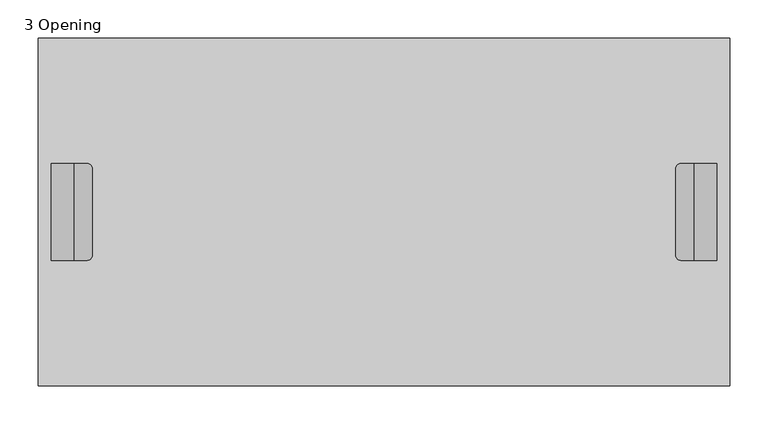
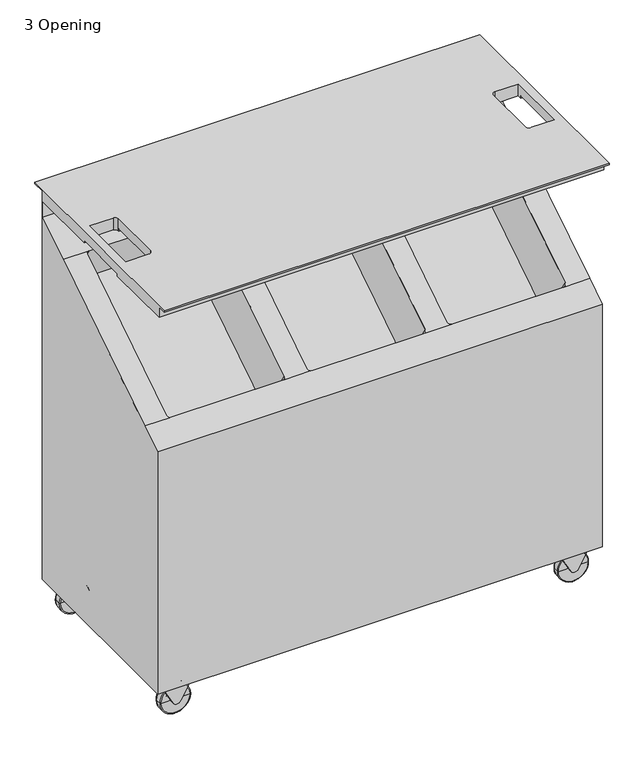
"""IFC4 building model written with IfcOpenShell, lengths in millimetres: furniture geometry, Steelcase - Victor2 - Mobile Unit : 3 Opening."""

from ifc_helpers import new_model, si_unit, point, frame, frame_2d, origin, place, context, project, spatial, polyline, circle_curve, ellipse_curve, trimmed, segment, composite_curve, outline, extrude, source, transform, mapped, element, save
from ifc_brep_helpers import plane_surface, cylinder_surface, revolved_surface, advanced_brep


def furniture_3_opening_07100883(model_context):
    return source(origin(), model_context, "Body", "SolidModel", [
        advanced_brep(
        [(911.56, -457.2, 911.56), (911.56, -457.2, 907.999633), (911.56, -439.2, 907.999633), (911.56, -439.2, 886.1806), (911.56, -292.2, 886.1806), (911.56, -292.2, 891.399), (911.56, -174.1382207, 891.399), (911.56, -174.1382207, 886.1806), (911.56, -26.2, 886.1806), (911.56, -26.2, 852.0684), (911.56, -99.5358468, 805.3628057), (911.56, -388.5910552, 621.2714522), (911.56, -433.728, 592.5249671), (911.56, -433.728, 69.3674), (911.56, -25.4, 69.3674), (911.56, -25.4, 908.05), (911.56, 0.0, 908.05), (911.56, 0.0, 911.56), (2.84, -457.2, 911.56), (2.84, 0.0, 911.56), (2.84, 0.0, 908.05), (2.84, -25.4, 908.05), (2.84, -25.4, 69.3674), (2.84, -433.728, 69.3674), (2.84, -433.728, 592.5249671), (2.84, -388.5910552, 621.2714522), (2.84, -99.5358468, 805.3628057), (2.84, -26.2, 852.0684), (2.84, -26.2, 886.1806), (2.84, -174.1382207, 886.1806), (2.84, -174.1382207, 891.399), (2.84, -292.2, 891.399), (2.84, -292.2, 886.1806), (2.84, -439.2, 886.1806), (2.84, -439.2, 907.999633), (2.84, -457.2, 907.999633), (19.9, -292.2, 891.399), (19.9, -292.2, 911.56), (67.5633572, -292.2, 911.56), (67.5633572, -292.2, 891.399), (846.8366428, -292.2, 891.399), (846.8366428, -292.2, 911.56), (894.5, -292.2, 911.56), (894.5, -292.2, 891.399), (894.5, -174.1382207, 891.399), (19.9, -174.1382207, 891.399), (73.9133572, -285.85, 891.399), (73.9133572, -174.1382207, 891.399), (840.4866428, -174.1382207, 891.399), (840.4866428, -285.85, 891.399), (894.5, -174.1382207, 886.1806), (19.9, -174.1382207, 886.1806), (73.9133572, -174.1382207, 886.1806), (840.4866428, -174.1382207, 886.1806), (894.5, -165.2030242, 886.1806), (846.8366428, -165.2030242, 886.1806), (840.4866428, -171.5530242, 886.1806), (73.9133572, -171.5530242, 886.1806), (67.5633572, -165.2030242, 886.1806), (19.9, -165.2030242, 886.1806), (56.15, -99.5358468, 805.3628057), (284.75, -99.5358468, 805.3628057), (343.4, -99.5358468, 805.3628057), (572.0, -99.5358468, 805.3628057), (629.65, -99.5358468, 805.3628057), (858.25, -99.5358468, 805.3628057), (864.6, -104.8918621, 801.9517061), (864.6, -383.2354342, 624.6823007), (858.3270488, -388.5910552, 621.2714522), (53.5728625, -388.5910552, 621.2714522), (49.8, -383.6959765, 624.388994), (49.8, -104.8918621, 801.9517061), (291.1, -104.8918621, 801.9517061), (291.1, -383.6959765, 624.388994), (287.3271375, -388.5910552, 621.2714522), (340.7363542, -388.5910552, 621.2714522), (337.05, -383.7290339, 624.3679406), (337.05, -104.8918621, 801.9517061), (578.35, -104.8918621, 801.9517061), (578.35, -383.7290339, 624.3679406), (574.6636458, -388.5910552, 621.2714522), (629.65, -388.5914495, 621.2712011), (623.3, -383.2354342, 624.6823007), (623.3, -104.8918621, 801.9517061), (572.0, -389.0850492, 620.956841), (343.4, -389.0850492, 620.956841), (284.75, -389.0519917, 620.9778944), (56.15, -389.0519917, 620.9778944), (19.9, -165.2030242, 911.56), (67.5633572, -165.2030242, 911.56), (73.9133572, -171.5530242, 911.56), (73.9133572, -285.85, 911.56), (840.4866428, -171.5530242, 911.56), (846.8366428, -165.2030242, 911.56), (894.5, -165.2030242, 911.56), (840.4866428, -285.85, 911.56), (56.15, -28.2063361, 693.3631588), (49.8, -33.5623514, 689.9520592), (49.8, -312.3664657, 512.3893471), (56.15, -317.722481, 508.9782475), (284.75, -317.722481, 508.9782475), (291.1, -312.3664657, 512.3893471), (291.1, -33.5623514, 689.9520592), (284.75, -28.2063361, 693.3631588), (343.4, -28.2063361, 693.3631588), (337.05, -33.5623514, 689.9520592), (337.05, -312.3995232, 512.3682937), (343.4, -317.7555385, 508.9571941), (572.0, -317.7555385, 508.9571941), (578.35, -312.3995232, 512.3682937), (578.35, -33.5623514, 689.9520592), (572.0, -28.2063361, 693.3631588), (629.65, -28.2063361, 693.3631588), (623.3, -33.5623514, 689.9520592), (623.3, -311.9059235, 512.6826538), (629.65, -317.2619388, 509.2715542), (858.25, -317.2619388, 509.2715542), (864.6, -311.9059235, 512.6826538), (864.6, -33.5623514, 689.9520592), (858.25, -28.2063361, 693.3631588)],
        [
            (0, 1),
            (1, 2),
            (2, 3),
            (3, 4),
            (4, 5),
            (5, 6),
            (6, 7),
            (7, 8),
            (8, 9),
            (9, 10),
            (10, 11),
            (11, 12),
            (12, 13),
            (13, 14),
            (14, 15),
            (15, 16),
            (16, 17),
            (17, 0),
            (18, 19),
            (19, 20),
            (20, 21),
            (21, 22),
            (22, 23),
            (23, 24),
            (24, 25),
            (25, 26),
            (26, 27),
            (27, 28),
            (28, 29),
            (29, 30),
            (30, 31),
            (31, 32),
            (32, 33),
            (33, 34),
            (34, 35),
            (35, 18),
            (0, 18),
            (35, 1),
            (34, 2),
            (33, 3),
            (32, 4),
            (31, 36),
            (36, 37),
            (37, 38),
            (38, 39),
            (39, 40),
            (40, 41),
            (41, 42),
            (42, 43),
            (43, 5),
            (43, 44),
            (44, 6),
            (30, 45),
            (45, 36),
            (39, 46, circle_curve(frame((67.5633572, -285.85, 891.399), z_axis=(0.0, 0.0, 1.0), x_axis=(1.0, 0.0, 0.0)), 6.35)),
            (46, 47),
            (47, 48),
            (48, 49),
            (49, 40, circle_curve(frame((846.8366428, -285.85, 891.399), z_axis=(0.0, 0.0, 1.0), x_axis=(1.0, 0.0, 0.0)), 6.35)),
            (44, 50),
            (50, 7),
            (29, 51),
            (51, 45),
            (47, 52),
            (52, 53),
            (53, 48),
            (50, 54),
            (54, 55),
            (55, 56, circle_curve(frame((846.8366428, -171.5530242, 886.1806), z_axis=(0.0, 0.0, 1.0), x_axis=(1.0, 0.0, 0.0)), 6.35)),
            (56, 53),
            (52, 57),
            (57, 58, circle_curve(frame((67.5633572, -171.5530242, 886.1806), z_axis=(0.0, 0.0, 1.0), x_axis=(1.0, 0.0, 0.0)), 6.35)),
            (58, 59),
            (59, 51),
            (28, 8),
            (27, 9),
            (26, 60),
            (60, 61),
            (61, 62),
            (62, 63),
            (63, 64),
            (64, 65),
            (65, 10),
            (65, 66, circle_curve(frame((858.25, -104.8918621, 801.9517061), z_axis=(0.0, 0.537181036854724, -0.8434669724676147), x_axis=(1.0, 0.0, 0.0)), 6.35)),
            (66, 67),
            (67, 68, circle_curve(frame((858.25, -383.2354342, 624.6823007), z_axis=(0.0, 0.537181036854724, -0.8434669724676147), x_axis=(1.0, 0.0, 0.0)), 6.35)),
            (68, 11),
            (25, 69),
            (69, 70, circle_curve(frame((56.15, -383.6959765, 624.388994), z_axis=(0.0, 0.537181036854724, -0.8434669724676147), x_axis=(1.0, 0.0, 0.0)), 6.35)),
            (70, 71),
            (71, 60, circle_curve(frame((56.15, -104.8918621, 801.9517061), z_axis=(0.0, 0.537181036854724, -0.8434669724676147), x_axis=(1.0, 0.0, 0.0)), 6.35)),
            (61, 72, circle_curve(frame((284.75, -104.8918621, 801.9517061), z_axis=(0.0, 0.537181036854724, -0.8434669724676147), x_axis=(1.0, 0.0, 0.0)), 6.35)),
            (72, 73),
            (73, 74, circle_curve(frame((284.75, -383.6959765, 624.388994), z_axis=(0.0, 0.537181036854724, -0.8434669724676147), x_axis=(1.0, 0.0, 0.0)), 6.35)),
            (74, 75),
            (75, 76, circle_curve(frame((343.4, -383.7290339, 624.3679406), z_axis=(0.0, 0.537181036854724, -0.8434669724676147), x_axis=(1.0, 0.0, 0.0)), 6.35)),
            (76, 77),
            (77, 62, circle_curve(frame((343.4, -104.8918621, 801.9517061), z_axis=(0.0, 0.537181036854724, -0.8434669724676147), x_axis=(1.0, 0.0, 0.0)), 6.35)),
            (63, 78, circle_curve(frame((572.0, -104.8918621, 801.9517061), z_axis=(0.0, 0.537181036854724, -0.8434669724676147), x_axis=(1.0, 0.0, 0.0)), 6.35)),
            (78, 79),
            (79, 80, circle_curve(frame((572.0, -383.7290339, 624.3679406), z_axis=(0.0, 0.537181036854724, -0.8434669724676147), x_axis=(1.0, 0.0, 0.0)), 6.35)),
            (80, 81),
            (81, 82, circle_curve(frame((629.65, -383.2354342, 624.6823007), z_axis=(0.0, 0.537181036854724, -0.8434669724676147), x_axis=(1.0, 0.0, 0.0)), 6.35)),
            (82, 83),
            (83, 64, circle_curve(frame((629.65, -104.8918621, 801.9517061), z_axis=(0.0, 0.537181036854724, -0.8434669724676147), x_axis=(1.0, 0.0, 0.0)), 6.35)),
            (68, 81),
            (80, 84, circle_curve(frame((572.0, -383.7290339, 624.3679406), z_axis=(0.0, 0.537181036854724, -0.8434669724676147), x_axis=(1.0, 0.0, 0.0)), 6.35)),
            (84, 85),
            (85, 75, circle_curve(frame((343.4, -383.7290339, 624.3679406), z_axis=(0.0, 0.537181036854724, -0.8434669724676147), x_axis=(1.0, 0.0, 0.0)), 6.35)),
            (74, 86, circle_curve(frame((284.75, -383.6959765, 624.388994), z_axis=(0.0, 0.537181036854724, -0.8434669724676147), x_axis=(1.0, 0.0, 0.0)), 6.35)),
            (86, 87),
            (87, 69, circle_curve(frame((56.15, -383.6959765, 624.388994), z_axis=(0.0, 0.537181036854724, -0.8434669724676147), x_axis=(1.0, 0.0, 0.0)), 6.35)),
            (24, 12),
            (23, 13),
            (22, 14),
            (21, 15),
            (20, 16),
            (19, 17),
            (88, 89),
            (89, 90, circle_curve(frame((67.5633572, -171.5530242, 911.56), z_axis=(0.0, 0.0, -1.0), x_axis=(1.0, 0.0, 0.0)), 6.35)),
            (90, 91),
            (91, 38, circle_curve(frame((67.5633572, -285.85, 911.56), z_axis=(0.0, 0.0, -1.0), x_axis=(1.0, 0.0, 0.0)), 6.35)),
            (37, 88),
            (92, 93, circle_curve(frame((846.8366428, -171.5530242, 911.56), z_axis=(0.0, 0.0, -1.0), x_axis=(1.0, 0.0, 0.0)), 6.35)),
            (93, 94),
            (94, 42),
            (41, 95, circle_curve(frame((846.8366428, -285.85, 911.56), z_axis=(0.0, 0.0, -1.0), x_axis=(1.0, 0.0, 0.0)), 6.35)),
            (95, 92),
            (96, 97, circle_curve(frame((56.15, -33.5623514, 689.9520592), z_axis=(0.0, -0.537181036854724, 0.8434669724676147), x_axis=(1.0, 0.0, 0.0)), 6.35)),
            (97, 98),
            (98, 99, circle_curve(frame((56.15, -312.3664657, 512.3893471), z_axis=(0.0, -0.537181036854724, 0.8434669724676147), x_axis=(1.0, 0.0, 0.0)), 6.35)),
            (99, 100),
            (100, 101, circle_curve(frame((284.75, -312.3664657, 512.3893471), z_axis=(0.0, -0.537181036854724, 0.8434669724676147), x_axis=(1.0, 0.0, 0.0)), 6.35)),
            (101, 102),
            (102, 103, circle_curve(frame((284.75, -33.5623514, 689.9520592), z_axis=(0.0, -0.537181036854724, 0.8434669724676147), x_axis=(1.0, 0.0, 0.0)), 6.35)),
            (103, 96),
            (104, 105, circle_curve(frame((343.4, -33.5623514, 689.9520592), z_axis=(0.0, -0.537181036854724, 0.8434669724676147), x_axis=(1.0, 0.0, 0.0)), 6.35)),
            (105, 106),
            (106, 107, circle_curve(frame((343.4, -312.3995232, 512.3682937), z_axis=(0.0, -0.537181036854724, 0.8434669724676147), x_axis=(1.0, 0.0, 0.0)), 6.35)),
            (107, 108),
            (108, 109, circle_curve(frame((572.0, -312.3995232, 512.3682937), z_axis=(0.0, -0.537181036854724, 0.8434669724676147), x_axis=(1.0, 0.0, 0.0)), 6.35)),
            (109, 110),
            (110, 111, circle_curve(frame((572.0, -33.5623514, 689.9520592), z_axis=(0.0, -0.537181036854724, 0.8434669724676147), x_axis=(1.0, 0.0, 0.0)), 6.35)),
            (111, 104),
            (112, 113, circle_curve(frame((629.65, -33.5623514, 689.9520592), z_axis=(0.0, -0.537181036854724, 0.8434669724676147), x_axis=(1.0, 0.0, 0.0)), 6.35)),
            (113, 114),
            (114, 115, circle_curve(frame((629.65, -311.9059235, 512.6826538), z_axis=(0.0, -0.537181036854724, 0.8434669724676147), x_axis=(1.0, 0.0, 0.0)), 6.35)),
            (115, 116),
            (116, 117, circle_curve(frame((858.25, -311.9059235, 512.6826538), z_axis=(0.0, -0.537181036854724, 0.8434669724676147), x_axis=(1.0, 0.0, 0.0)), 6.35)),
            (117, 118),
            (118, 119, circle_curve(frame((858.25, -33.5623514, 689.9520592), z_axis=(0.0, -0.537181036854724, 0.8434669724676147), x_axis=(1.0, 0.0, 0.0)), 6.35)),
            (119, 112),
            (96, 60),
            (71, 97),
            (70, 98),
            (87, 99),
            (86, 100),
            (73, 101),
            (72, 102),
            (61, 103),
            (104, 62),
            (77, 105),
            (76, 106),
            (85, 107),
            (84, 108),
            (79, 109),
            (78, 110),
            (63, 111),
            (112, 64),
            (83, 113),
            (82, 114),
            (81, 115),
            (68, 116),
            (67, 117),
            (66, 118),
            (65, 119),
            (58, 89),
            (88, 59),
            (91, 46),
            (90, 57),
            (55, 93),
            (92, 56),
            (95, 49),
            (94, 54),
        ],
        [
            plane_surface(frame((911.56, -457.2, 908.4), z_axis=(1.0, 0.0, 0.0), x_axis=(0.0, 0.0, -1.0))),
            plane_surface(frame((2.84, -457.2, 908.4), z_axis=(-1.0, 0.0, 0.0), x_axis=(0.0, 0.0, 1.0))),
            plane_surface(frame((911.56, -457.2, 911.56), z_axis=(0.0, -1.0, 0.0), x_axis=(-1.0, 0.0, 0.0))),
            plane_surface(frame((911.56, -457.2, 907.999633), z_axis=(0.0, 0.0, -1.0), x_axis=(-1.0, 0.0, 0.0))),
            plane_surface(frame((911.56, -439.2, 907.999633), z_axis=(0.0, -1.0, 0.0), x_axis=(-1.0, 0.0, 0.0))),
            plane_surface(frame((911.56, -439.2, 886.1806), z_axis=(0.0, 0.0, -1.0), x_axis=(-1.0, 0.0, 0.0))),
            plane_surface(frame((911.56, -292.2, 886.1806), z_axis=(0.0, 1.0, 0.0), x_axis=(-1.0, 0.0, 0.0))),
            plane_surface(frame((911.56, -292.2, 891.399), z_axis=(0.0, 0.0, -1.0), x_axis=(-1.0, 0.0, 0.0))),
            plane_surface(frame((911.56, -174.1382207, 891.399), z_axis=(0.0, -1.0, 0.0), x_axis=(-1.0, 0.0, 0.0))),
            plane_surface(frame((911.56, -174.1382207, 886.1806), z_axis=(0.0, 0.0, -1.0), x_axis=(-1.0, 0.0, 0.0))),
            plane_surface(frame((911.56, -26.2, 886.1806), z_axis=(0.0, -1.0, 0.0), x_axis=(-1.0, 0.0, 0.0))),
            plane_surface(frame((911.56, -26.2, 852.0684), z_axis=(0.0, -0.5371810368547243, 0.8434669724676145), x_axis=(-1.0, 0.0, 0.0))),
            plane_surface(frame((911.56, -99.5358468, 805.3628057), z_axis=(0.0, -0.5371810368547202, 0.843466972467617), x_axis=(-1.0, 0.0, 0.0))),
            plane_surface(frame((911.56, -388.5910552, 621.2714522), z_axis=(0.0, -0.5371810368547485, 0.843466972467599), x_axis=(-1.0, 0.0, 0.0))),
            plane_surface(frame((911.56, -433.728, 592.5249671), z_axis=(0.0, -1.0, 0.0), x_axis=(-1.0, 0.0, 0.0))),
            plane_surface(frame((911.56, -433.728, 69.3674), z_axis=(0.0, 0.0, -1.0), x_axis=(-1.0, 0.0, 0.0))),
            plane_surface(frame((911.56, -25.4, 69.3674), z_axis=(0.0, 1.0, 0.0), x_axis=(-1.0, 0.0, 0.0))),
            plane_surface(frame((911.56, -25.4, 908.05), z_axis=(0.0, 0.0, -1.0), x_axis=(-1.0, 0.0, 0.0))),
            plane_surface(frame((911.56, 0.0, 908.05), z_axis=(0.0, 1.0, 0.0), x_axis=(-1.0, 0.0, 0.0))),
            plane_surface(frame((911.56, 0.0, 911.56), z_axis=(0.0, 0.0, 1.0), x_axis=(-1.0, 0.0, 0.0))),
            plane_surface(frame((62.5, -33.5623514, 689.9520592), z_axis=(0.0, -0.5371810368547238, 0.8434669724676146), x_axis=(0.0, -0.8434669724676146, -0.5371810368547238))),
            revolved_surface(polyline([(62.5, -104.89186210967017, 801.9517060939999), (62.5, -33.5623514, 689.9520592)]), (56.15, -33.5623514, 689.9520592), (0.0, -0.537181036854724, 0.8434669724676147)),
            plane_surface(frame((49.8, -130.0259643, 841.416586), z_axis=(1.0, 0.0, 0.0), x_axis=(0.0, 0.537181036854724, -0.8434669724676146))),
            revolved_surface(polyline([(62.5, -383.6959764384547, 624.3889940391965), (62.5, -312.36646569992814, 512.3893470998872)]), (56.15, -312.3664657, 512.3893471), (0.0, -0.537181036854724, 0.8434669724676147)),
            plane_surface(frame((56.15, -414.1860939, 660.4427743), z_axis=(0.0, 0.8434669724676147, 0.5371810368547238), x_axis=(0.0, 0.5371810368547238, -0.8434669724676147))),
            revolved_surface(polyline([(291.1, -383.6959764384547, 624.3889940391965), (291.1, -312.36646569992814, 512.3893470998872)]), (284.75, -312.3664657, 512.3893471), (0.0, -0.537181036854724, 0.8434669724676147)),
            plane_surface(frame((291.1, -408.8300787, 663.8538738), z_axis=(-1.0, 0.0, 0.0), x_axis=(0.0, 0.5371810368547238, -0.8434669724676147))),
            revolved_surface(polyline([(291.1, -104.89186210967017, 801.9517060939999), (291.1, -33.5623514, 689.9520592)]), (284.75, -33.5623514, 689.9520592), (0.0, -0.537181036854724, 0.8434669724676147)),
            plane_surface(frame((284.75, -124.669949, 844.8276856), z_axis=(0.0, -0.8434669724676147, -0.5371810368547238), x_axis=(0.0, 0.5371810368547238, -0.8434669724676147))),
            revolved_surface(polyline([(349.75, -104.89186207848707, 801.9517061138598), (349.75, -33.56235136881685, 689.95205921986)]), (343.4, 325.1981738, 126.6360945), (0.0, -0.537181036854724, 0.8434669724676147)),
            plane_surface(frame((337.05, -130.0259643, 841.416586), z_axis=(1.0, 0.0, 0.0), x_axis=(0.0, 0.5371810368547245, -0.8434669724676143))),
            revolved_surface(polyline([(349.75, -383.72903394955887, 624.3679405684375), (349.75, -312.3995232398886, 512.3682936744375)]), (343.4, 46.3610019, -50.947671), (0.0, -0.537181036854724, 0.8434669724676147)),
            plane_surface(frame((343.4, -414.2191514, 660.4217209), z_axis=(0.0, 0.8434669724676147, 0.5371810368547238), x_axis=(0.0, 0.5371810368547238, -0.8434669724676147))),
            revolved_surface(polyline([(578.35, -383.72903394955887, 624.3679405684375), (578.35, -312.3995232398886, 512.3682936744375)]), (572.0, 46.3610019, -50.947671), (0.0, -0.537181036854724, 0.8434669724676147)),
            plane_surface(frame((578.35, -408.8631361, 663.8328204), z_axis=(-1.0000000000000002, 0.0, 0.0), x_axis=(0.0, 0.5371810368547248, -0.8434669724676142))),
            revolved_surface(polyline([(578.35, -104.89186207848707, 801.9517061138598), (578.35, -33.56235136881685, 689.95205921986)]), (572.0, 325.1981738, 126.6360945), (0.0, -0.537181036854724, 0.8434669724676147)),
            plane_surface(frame((572.0, -124.669949, 844.8276856), z_axis=(0.0, -0.8434669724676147, -0.5371810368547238), x_axis=(0.0, 0.5371810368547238, -0.8434669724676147))),
            revolved_surface(polyline([(636.0, -104.89186207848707, 801.9517061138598), (636.0, -33.56235136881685, 689.95205921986)]), (629.65, 325.1981738, 126.6360945), (0.0, -0.537181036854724, 0.8434669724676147)),
            plane_surface(frame((623.3, -130.0259643, 841.416586), z_axis=(1.0, 0.0, 0.0), x_axis=(0.0, 0.5371810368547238, -0.8434669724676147))),
            revolved_surface(polyline([(636.0, -383.23543424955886, 624.6823006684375), (636.0, -311.9059235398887, 512.6826537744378)]), (629.65, 46.8546016, -50.6333109), (0.0, -0.537181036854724, 0.8434669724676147)),
            plane_surface(frame((629.65, -413.7255517, 660.736081), z_axis=(0.0, 0.8434669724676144, 0.5371810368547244), x_axis=(0.0, 0.5371810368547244, -0.8434669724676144))),
            revolved_surface(polyline([(864.6, -383.23543424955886, 624.6823006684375), (864.6, -311.9059235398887, 512.6826537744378)]), (858.25, 46.8546016, -50.6333109), (0.0, -0.537181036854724, 0.8434669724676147)),
            plane_surface(frame((864.6, -408.3695364, 664.1471806), z_axis=(-1.0, 0.0, 0.0), x_axis=(0.0, 0.5371810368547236, -0.8434669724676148))),
            revolved_surface(polyline([(864.6, -104.89186207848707, 801.9517061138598), (864.6, -33.56235136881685, 689.95205921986)]), (858.25, 325.1981738, 126.6360945), (0.0, -0.537181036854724, 0.8434669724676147)),
            plane_surface(frame((858.25, -124.669949, 844.8276856), z_axis=(0.0, -0.8434669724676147, -0.5371810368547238), x_axis=(0.0, 0.5371810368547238, -0.8434669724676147))),
            plane_surface(frame((67.5633572, -165.2030242, 914.4), z_axis=(0.0, -1.0, 0.0), x_axis=(0.0, 0.0, -1.0))),
            plane_surface(frame((19.9, -165.2030242, 914.4), z_axis=(1.0, 0.0, 0.0), x_axis=(0.0, 0.0, -1.0))),
            revolved_surface(polyline([(73.9133572, -285.85, 911.56), (73.9133572, -285.85, 891.399)]), (67.5633572, -285.85, 882.65), (0.0, 0.0, 1.0)),
            plane_surface(frame((73.9133572, -285.85, 914.4), z_axis=(-1.0, 0.0, 0.0), x_axis=(0.0, 0.0, -1.0))),
            revolved_surface(polyline([(73.9133572, -171.5530242, 911.56), (73.9133572, -171.5530242, 886.1806)]), (67.5633572, -171.5530242, 882.65), (0.0, 0.0, 1.0)),
            revolved_surface(polyline([(853.1866428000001, -171.5530242, 911.56), (853.1866428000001, -171.5530242, 886.1806)]), (846.8366428, -171.5530242, 0.0), (0.0, 0.0, 1.0)),
            plane_surface(frame((840.4866428, -171.5530242, 914.4), z_axis=(1.0, 0.0, 0.0), x_axis=(0.0, 0.0, -1.0))),
            revolved_surface(polyline([(853.1866428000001, -285.85, 911.56), (853.1866428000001, -285.85, 891.399)]), (846.8366428, -285.85, 0.0), (0.0, 0.0, 1.0)),
            plane_surface(frame((894.5, -292.2, 914.4), z_axis=(-1.0, 0.0, 0.0), x_axis=(0.0, 0.0, -1.0))),
            plane_surface(frame((894.5, -165.2030242, 914.4), z_axis=(0.0, -1.0, 0.0), x_axis=(0.0, 0.0, -1.0))),
        ],
        [
            (0, [[1, 2, 3, 4, 5, 6, 7, 8, 9, 10, 11, 12, 13, 14, 15, 16, 17, 18]]),
            (1, [[19, 20, 21, 22, 23, 24, 25, 26, 27, 28, 29, 30, 31, 32, 33, 34, 35, 36]]),
            (2, [[-1, 37, -36, 38]]),
            (3, [[-2, -38, -35, 39]]),
            (4, [[-3, -39, -34, 40]]),
            (5, [[41, -4, -40, -33]]),
            (6, [[-5, -41, -32, 42, 43, 44, 45, 46, 47, 48, 49, 50]]),
            (7, [[-6, -50, 51, 52]]),
            (7, [[-31, 53, 54, -42]]),
            (7, [[-46, 55, 56, 57, 58, 59]]),
            (8, [[-7, -52, 60, 61]]),
            (8, [[-30, 62, 63, -53]]),
            (8, [[-57, 64, 65, 66]]),
            (9, [[-8, -61, 67, 68, 69, 70, -65, 71, 72, 73, 74, -62, -29, 75]]),
            (10, [[-9, -75, -28, 76]]),
            (11, [[-10, -76, -27, 77, 78, 79, 80, 81, 82, 83]]),
            (12, [[-11, -83, 84, 85, 86, 87]]),
            (12, [[-26, 88, 89, 90, 91, -77]]),
            (12, [[-79, 92, 93, 94, 95, 96, 97, 98]]),
            (12, [[-81, 99, 100, 101, 102, 103, 104, 105]]),
            (13, [[-12, -87, 106, -102, 107, 108, 109, -95, 110, 111, 112, -88, -25, 113]]),
            (14, [[-13, -113, -24, 114]]),
            (15, [[-14, -114, -23, 115]]),
            (16, [[-15, -115, -22, 116]]),
            (17, [[-16, -116, -21, 117]]),
            (18, [[-17, -117, -20, 118]]),
            (19, [[-18, -118, -19, -37], [119, 120, 121, 122, -44, 123], [124, 125, 126, -48, 127, 128]]),
            (20, [[129, 130, 131, 132, 133, 134, 135, 136]]),
            (20, [[137, 138, 139, 140, 141, 142, 143, 144]]),
            (20, [[145, 146, 147, 148, 149, 150, 151, 152]]),
            (21, [[-129, 153, -91, 154]]),
            (22, [[-130, -154, -90, 155]]),
            (23, [[-131, -155, -89, -112, 156]]),
            (24, [[-132, -156, -111, 157]]),
            (25, [[-133, -157, -110, -94, 158]]),
            (26, [[-134, -158, -93, 159]]),
            (27, [[-135, -159, -92, 160]]),
            (28, [[-136, -160, -78, -153]]),
            (29, [[-137, 161, -98, 162]]),
            (30, [[-138, -162, -97, 163]]),
            (31, [[-139, -163, -96, -109, 164]]),
            (32, [[-140, -164, -108, 165]]),
            (33, [[-141, -165, -107, -101, 166]]),
            (34, [[-142, -166, -100, 167]]),
            (35, [[-143, -167, -99, 168]]),
            (36, [[-144, -168, -80, -161]]),
            (37, [[-145, 169, -105, 170]]),
            (38, [[-146, -170, -104, 171]]),
            (39, [[-147, -171, -103, 172]]),
            (40, [[-148, -172, -106, 173]]),
            (41, [[-149, -173, -86, 174]]),
            (42, [[-150, -174, -85, 175]]),
            (43, [[-151, -175, -84, 176]]),
            (44, [[-152, -176, -82, -169]]),
            (45, [[177, -119, 178, -73]]),
            (46, [[-178, -123, -43, -54, -63, -74]]),
            (47, [[-45, -122, 179, -55]]),
            (48, [[-179, -121, 180, -71, -64, -56]]),
            (49, [[-177, -72, -180, -120]]),
            (50, [[181, -124, 182, -69]]),
            (51, [[-182, -128, 183, -58, -66, -70]]),
            (52, [[-183, -127, -47, -59]]),
            (53, [[-49, -126, 184, -67, -60, -51]]),
            (54, [[-181, -68, -184, -125]]),
        ],
    ),
        extrude(outline(composite_curve([segment(polyline([(60.8674, 890.58), (66.1974, 890.58), (66.1974, 836.62), (60.8674, 836.62), (27.3790609, 855.1828895)]), True, "CONTINUOUS"), segment(trimmed(circle_curve(frame_2d((32.0447415, 863.6)), 9.6237376), [point((27.3790609, 855.1828895))], [point((27.3790609, 872.0171105))], False, "CARTESIAN"), True, "CONTINUOUS"), segment(polyline([(27.3790609, 872.0171105), (60.8674, 890.58)]), True, "CONTINUOUS")], self_intersect=False)), frame((0.0, -396.87, 0.0), z_axis=(0.0, 1.0, 0.0), x_axis=(0.0, 0.0, 1.0)), (0.0, 0.0, 1.0), 3.17),
        extrude(outline(composite_curve([segment(polyline([(60.8674, 890.58), (66.1974, 890.58), (66.1974, 836.62), (60.8674, 836.62), (27.3790609, 855.1828895)]), True, "CONTINUOUS"), segment(trimmed(circle_curve(frame_2d((32.0447415, 863.6)), 9.6237376), [point((27.3790609, 855.1828895))], [point((27.3790609, 872.0171105))], False, "CARTESIAN"), True, "CONTINUOUS"), segment(polyline([(27.3790609, 872.0171105), (60.8674, 890.58)]), True, "CONTINUOUS")], self_intersect=False)), frame((0.0, -419.1, 0.0), z_axis=(0.0, 1.0, 0.0), x_axis=(0.0, 0.0, 1.0)), (0.0, 0.0, 1.0), 3.17),
        advanced_brep(
        [(833.5826896, -414.106, 30.7081109), (893.6173104, -414.106, 30.7081109), (863.6, -414.106, 30.7081109), (832.1168465, -412.6401569, 30.7081109), (895.0831535, -412.6401569, 30.7081109), (832.1168465, -400.9169496, 30.7081109), (895.0831535, -400.9169496, 30.7081109), (833.9237961, -399.11, 30.7081109), (893.2762039, -399.11, 30.7081109), (863.6, -399.11, 30.7081109)],
        [
            (0, 1, circle_curve(frame((863.6, -414.106, 30.7081109), z_axis=(0.0, -1.0, 0.0), x_axis=(1.0, 0.0, 0.0)), 30.0173104)),
            (1, 2),
            (2, 0),
            (1, 0, circle_curve(frame((863.6, -414.106, 30.7081109), z_axis=(0.0, -1.0, 0.0), x_axis=(1.0, 0.0, 0.0)), 30.0173104)),
            (3, 4, circle_curve(frame((863.6, -412.6401569, 30.7081109), z_axis=(0.0, -1.0, 0.0), x_axis=(1.0, 0.0, 0.0)), 31.4831535)),
            (4, 1, circle_curve(frame((893.6173104, -412.6401569, 30.7081109), z_axis=(0.0, 0.0, -1.0), x_axis=(-1.0, 0.0, 0.0)), 1.4658431)),
            (0, 3, circle_curve(frame((833.5826896, -412.6401569, 30.7081109), z_axis=(0.0, 0.0, -1.0), x_axis=(1.0, 0.0, 0.0)), 1.4658431)),
            (4, 3, circle_curve(frame((863.6, -412.6401569, 30.7081109), z_axis=(0.0, -1.0, 0.0), x_axis=(1.0, 0.0, 0.0)), 31.4831535)),
            (5, 6, circle_curve(frame((863.6, -400.9169496, 30.7081109), z_axis=(0.0, -1.0, 0.0), x_axis=(1.0, 0.0, 0.0)), 31.4831535)),
            (6, 4),
            (3, 5),
            (6, 5, circle_curve(frame((863.6, -400.9169496, 30.7081109), z_axis=(0.0, -1.0, 0.0), x_axis=(1.0, 0.0, 0.0)), 31.4831535)),
            (7, 8, circle_curve(frame((863.6, -399.11, 30.7081109), z_axis=(0.0, -1.0, 0.0), x_axis=(1.0, 0.0, 0.0)), 29.6762039)),
            (8, 6, circle_curve(frame((893.2762039, -400.9169496, 30.7081109), z_axis=(0.0, 0.0, -1.0), x_axis=(-1.0, 0.0, 0.0)), 1.8069496)),
            (5, 7, circle_curve(frame((833.9237961, -400.9169496, 30.7081109), z_axis=(0.0, 0.0, -1.0), x_axis=(1.0, 0.0, 0.0)), 1.8069496)),
            (8, 7, circle_curve(frame((863.6, -399.11, 30.7081109), z_axis=(0.0, -1.0, 0.0), x_axis=(1.0, 0.0, 0.0)), 29.6762039)),
            (9, 8),
            (7, 9),
        ],
        [
            plane_surface(frame((863.6, -414.106, 30.7081109), z_axis=(0.0, -1.0, 0.0), x_axis=(1.0, 0.0, 0.0))),
            revolved_surface(trimmed(ellipse_curve(frame((893.6173104, -412.6401569, 30.7081109), z_axis=(0.0, 0.0, 1.0), x_axis=(-1.0, 0.0, 0.0)), 1.4658431, 1.4658431), [point((893.6173104, -414.106, 30.7081109))], [point((895.0831535, -412.6401569, 30.7081109))], True, "CARTESIAN"), (863.6, -409.0544886, 30.7081109), (0.0, 1.0, 0.0)),
            cylinder_surface(frame((863.6, -409.0544886, 30.7081109), z_axis=(0.0, 1.0, 0.0), x_axis=(1.0, 0.0, 0.0)), 31.4831535),
            revolved_surface(trimmed(ellipse_curve(frame((893.2762039, -400.9169496, 30.7081109), z_axis=(0.0, 0.0, 1.0), x_axis=(-1.0, 0.0, 0.0)), 1.8069496, 1.8069496), [point((895.0831535, -400.9169496, 30.7081109))], [point((893.2762039, -399.11, 30.7081109))], True, "CARTESIAN"), (863.6, -409.0544886, 30.7081109), (0.0, 1.0, 0.0)),
            plane_surface(frame((863.6, -399.11, 30.7081109), z_axis=(0.0, 1.0, 0.0), x_axis=(1.0, 0.0, 0.0))),
        ],
        [
            (0, [[1, 2, 3]]),
            (0, [[4, -3, -2]]),
            (1, [[5, 6, -1, 7]]),
            (1, [[8, -7, -4, -6]]),
            (2, [[9, 10, -5, 11]]),
            (2, [[12, -11, -8, -10]]),
            (3, [[13, 14, -9, 15]]),
            (3, [[16, -15, -12, -14]]),
            (4, [[17, -13, 18]]),
            (4, [[-18, -16, -17]]),
        ],
    ),
        extrude(outline(polyline([(836.62, -419.1), (836.62, -393.7), (890.58, -393.7), (890.58, -419.1), (836.62, -419.1)])), frame((0.0, 0.0, 66.1974), z_axis=(0.0, 0.0, 1.0), x_axis=(1.0, 0.0, 0.0)), (0.0, 0.0, 1.0), 3.17),
        extrude(outline(composite_curve([segment(polyline([(60.8674, 23.82), (27.3790609, 42.3828895)]), True, "CONTINUOUS"), segment(trimmed(circle_curve(frame_2d((32.0447415, 50.8)), 9.6237376), [point((27.3790609, 42.3828895))], [point((27.3790609, 59.2171105))], False, "CARTESIAN"), True, "CONTINUOUS"), segment(polyline([(27.3790609, 59.2171105), (60.8674, 77.78), (66.1974, 77.78), (66.1974, 23.82), (60.8674, 23.82)]), True, "CONTINUOUS")], self_intersect=False)), frame((0.0, -396.87, 0.0), z_axis=(0.0, 1.0, 0.0), x_axis=(0.0, 0.0, 1.0)), (0.0, 0.0, 1.0), 3.17),
        extrude(outline(composite_curve([segment(polyline([(60.8674, 23.82), (27.3790609, 42.3828895)]), True, "CONTINUOUS"), segment(trimmed(circle_curve(frame_2d((32.0447415, 50.8)), 9.6237376), [point((27.3790609, 42.3828895))], [point((27.3790609, 59.2171105))], False, "CARTESIAN"), True, "CONTINUOUS"), segment(polyline([(27.3790609, 59.2171105), (60.8674, 77.78), (66.1974, 77.78), (66.1974, 23.82), (60.8674, 23.82)]), True, "CONTINUOUS")], self_intersect=False)), frame((0.0, -419.1, 0.0), z_axis=(0.0, 1.0, 0.0), x_axis=(0.0, 0.0, 1.0)), (0.0, 0.0, 1.0), 3.17),
        advanced_brep(
        [(80.4762039, -399.11, 30.7081109), (21.1237961, -399.11, 30.7081109), (50.8, -399.11, 30.7081109), (82.2831535, -400.9169496, 30.7081109), (19.3168465, -400.9169496, 30.7081109), (82.2831535, -412.6401569, 30.7081109), (19.3168465, -412.6401569, 30.7081109), (80.8173104, -414.106, 30.7081109), (20.7826896, -414.106, 30.7081109), (50.8, -414.106, 30.7081109)],
        [
            (0, 1, circle_curve(frame((50.8, -399.11, 30.7081109), z_axis=(0.0, 1.0, 0.0), x_axis=(-1.0, 0.0, 0.0)), 29.6762039)),
            (1, 2),
            (2, 0),
            (1, 0, circle_curve(frame((50.8, -399.11, 30.7081109), z_axis=(0.0, 1.0, 0.0), x_axis=(-1.0, 0.0, 0.0)), 29.6762039)),
            (3, 4, circle_curve(frame((50.8, -400.9169496, 30.7081109), z_axis=(0.0, 1.0, 0.0), x_axis=(-1.0, 0.0, 0.0)), 31.4831535)),
            (4, 1, circle_curve(frame((21.1237961, -400.9169496, 30.7081109), z_axis=(0.0, 0.0, -1.0), x_axis=(1.0, 0.0, 0.0)), 1.8069496)),
            (0, 3, circle_curve(frame((80.4762039, -400.9169496, 30.7081109), z_axis=(0.0, 0.0, -1.0), x_axis=(-1.0, 0.0, 0.0)), 1.8069496)),
            (4, 3, circle_curve(frame((50.8, -400.9169496, 30.7081109), z_axis=(0.0, 1.0, 0.0), x_axis=(-1.0, 0.0, 0.0)), 31.4831535)),
            (5, 6, circle_curve(frame((50.8, -412.6401569, 30.7081109), z_axis=(0.0, 1.0, 0.0), x_axis=(-1.0, 0.0, 0.0)), 31.4831535)),
            (6, 4),
            (3, 5),
            (6, 5, circle_curve(frame((50.8, -412.6401569, 30.7081109), z_axis=(0.0, 1.0, 0.0), x_axis=(-1.0, 0.0, 0.0)), 31.4831535)),
            (7, 8, circle_curve(frame((50.8, -414.106, 30.7081109), z_axis=(0.0, 1.0, 0.0), x_axis=(-1.0, 0.0, 0.0)), 30.0173104)),
            (8, 6, circle_curve(frame((20.7826896, -412.6401569, 30.7081109), z_axis=(0.0, 0.0, -1.0), x_axis=(1.0, 0.0, 0.0)), 1.4658431)),
            (5, 7, circle_curve(frame((80.8173104, -412.6401569, 30.7081109), z_axis=(0.0, 0.0, -1.0), x_axis=(-1.0, 0.0, 0.0)), 1.4658431)),
            (8, 7, circle_curve(frame((50.8, -414.106, 30.7081109), z_axis=(0.0, 1.0, 0.0), x_axis=(-1.0, 0.0, 0.0)), 30.0173104)),
            (9, 8),
            (7, 9),
        ],
        [
            plane_surface(frame((50.8, -399.11, 30.7081109), z_axis=(0.0, 1.0, 0.0), x_axis=(-1.0, 0.0, 0.0))),
            revolved_surface(trimmed(ellipse_curve(frame((21.1237961, -400.9169496, 30.7081109), z_axis=(0.0, 0.0, 1.0), x_axis=(1.0, 0.0, 0.0)), 1.8069496, 1.8069496), [point((21.1237961, -399.11, 30.7081109))], [point((19.3168465, -400.9169496, 30.7081109))], True, "CARTESIAN"), (50.8, -409.0544886, 30.7081109), (0.0, -1.0, 0.0)),
            cylinder_surface(frame((50.8, -409.0544886, 30.7081109), z_axis=(0.0, -1.0, 0.0), x_axis=(-1.0, 0.0, 0.0)), 31.4831535),
            revolved_surface(trimmed(ellipse_curve(frame((20.7826896, -412.6401569, 30.7081109), z_axis=(0.0, 0.0, 1.0), x_axis=(1.0, 0.0, 0.0)), 1.4658431, 1.4658431), [point((19.3168465, -412.6401569, 30.7081109))], [point((20.7826896, -414.106, 30.7081109))], True, "CARTESIAN"), (50.8, -409.0544886, 30.7081109), (0.0, -1.0, 0.0)),
            plane_surface(frame((50.8, -414.106, 30.7081109), z_axis=(0.0, -1.0, 0.0), x_axis=(-1.0, 0.0, 0.0))),
        ],
        [
            (0, [[1, 2, 3]]),
            (0, [[4, -3, -2]]),
            (1, [[5, 6, -1, 7]]),
            (1, [[8, -7, -4, -6]]),
            (2, [[9, 10, -5, 11]]),
            (2, [[12, -11, -8, -10]]),
            (3, [[13, 14, -9, 15]]),
            (3, [[16, -15, -12, -14]]),
            (4, [[17, -13, 18]]),
            (4, [[-18, -16, -17]]),
        ],
    ),
        extrude(outline(polyline([(77.78, -419.1), (23.82, -419.1), (23.82, -393.7), (77.78, -393.7), (77.78, -419.1)])), frame((0.0, 0.0, 66.1974), z_axis=(0.0, 0.0, 1.0), x_axis=(1.0, 0.0, 0.0)), (0.0, 0.0, 1.0), 3.17),
        extrude(outline(composite_curve([segment(polyline([(60.8674, 890.58), (66.1974, 890.58), (66.1974, 836.62), (60.8674, 836.62), (27.3790609, 855.1828895)]), True, "CONTINUOUS"), segment(trimmed(circle_curve(frame_2d((32.0447415, 863.6)), 9.6237376), [point((27.3790609, 855.1828895))], [point((27.3790609, 872.0171105))], False, "CARTESIAN"), True, "CONTINUOUS"), segment(polyline([(27.3790609, 872.0171105), (60.8674, 890.58)]), True, "CONTINUOUS")], self_intersect=False)), frame((0.0, -63.5, 0.0), z_axis=(0.0, 1.0, 0.0), x_axis=(0.0, 0.0, 1.0)), (0.0, 0.0, 1.0), 3.17),
        extrude(outline(composite_curve([segment(polyline([(60.8674, 890.58), (66.1974, 890.58), (66.1974, 836.62), (60.8674, 836.62), (27.3790609, 855.1828895)]), True, "CONTINUOUS"), segment(trimmed(circle_curve(frame_2d((32.0447415, 863.6)), 9.6237376), [point((27.3790609, 855.1828895))], [point((27.3790609, 872.0171105))], False, "CARTESIAN"), True, "CONTINUOUS"), segment(polyline([(27.3790609, 872.0171105), (60.8674, 890.58)]), True, "CONTINUOUS")], self_intersect=False)), frame((0.0, -41.27, 0.0), z_axis=(0.0, 1.0, 0.0), x_axis=(0.0, 0.0, 1.0)), (0.0, 0.0, 1.0), 3.17),
        advanced_brep(
        [(833.9237961, -58.09, 30.7081109), (893.2762039, -58.09, 30.7081109), (863.6, -58.09, 30.7081109), (832.1168465, -56.2830504, 30.7081109), (895.0831535, -56.2830504, 30.7081109), (832.1168465, -44.5598431, 30.7081109), (895.0831535, -44.5598431, 30.7081109), (833.5826896, -43.094, 30.7081109), (893.6173104, -43.094, 30.7081109), (863.6, -43.094, 30.7081109)],
        [
            (0, 1, circle_curve(frame((863.6, -58.09, 30.7081109), z_axis=(0.0, -1.0, 0.0), x_axis=(1.0, 0.0, 0.0)), 29.6762039)),
            (1, 2),
            (2, 0),
            (1, 0, circle_curve(frame((863.6, -58.09, 30.7081109), z_axis=(0.0, -1.0, 0.0), x_axis=(1.0, 0.0, 0.0)), 29.6762039)),
            (3, 4, circle_curve(frame((863.6, -56.2830504, 30.7081109), z_axis=(0.0, -1.0, 0.0), x_axis=(1.0, 0.0, 0.0)), 31.4831535)),
            (4, 1, circle_curve(frame((893.2762039, -56.2830504, 30.7081109), z_axis=(0.0, 0.0, -1.0), x_axis=(-1.0, 0.0, 0.0)), 1.8069496)),
            (0, 3, circle_curve(frame((833.9237961, -56.2830504, 30.7081109), z_axis=(0.0, 0.0, -1.0), x_axis=(1.0, 0.0, 0.0)), 1.8069496)),
            (4, 3, circle_curve(frame((863.6, -56.2830504, 30.7081109), z_axis=(0.0, -1.0, 0.0), x_axis=(1.0, 0.0, 0.0)), 31.4831535)),
            (5, 6, circle_curve(frame((863.6, -44.5598431, 30.7081109), z_axis=(0.0, -1.0, 0.0), x_axis=(1.0, 0.0, 0.0)), 31.4831535)),
            (6, 4),
            (3, 5),
            (6, 5, circle_curve(frame((863.6, -44.5598431, 30.7081109), z_axis=(0.0, -1.0, 0.0), x_axis=(1.0, 0.0, 0.0)), 31.4831535)),
            (7, 8, circle_curve(frame((863.6, -43.094, 30.7081109), z_axis=(0.0, -1.0, 0.0), x_axis=(1.0, 0.0, 0.0)), 30.0173104)),
            (8, 6, circle_curve(frame((893.6173104, -44.5598431, 30.7081109), z_axis=(0.0, 0.0, -1.0), x_axis=(-1.0, 0.0, 0.0)), 1.4658431)),
            (5, 7, circle_curve(frame((833.5826896, -44.5598431, 30.7081109), z_axis=(0.0, 0.0, -1.0), x_axis=(1.0, 0.0, 0.0)), 1.4658431)),
            (8, 7, circle_curve(frame((863.6, -43.094, 30.7081109), z_axis=(0.0, -1.0, 0.0), x_axis=(1.0, 0.0, 0.0)), 30.0173104)),
            (9, 8),
            (7, 9),
        ],
        [
            plane_surface(frame((863.6, -58.09, 30.7081109), z_axis=(0.0, -1.0, 0.0), x_axis=(1.0, 0.0, 0.0))),
            revolved_surface(trimmed(ellipse_curve(frame((893.2762039, -56.2830504, 30.7081109), z_axis=(0.0, 0.0, 1.0), x_axis=(-1.0, 0.0, 0.0)), 1.8069496, 1.8069496), [point((893.2762039, -58.09, 30.7081109))], [point((895.0831535, -56.2830504, 30.7081109))], True, "CARTESIAN"), (863.6, -48.1455114, 30.7081109), (0.0, 1.0, 0.0)),
            cylinder_surface(frame((863.6, -48.1455114, 30.7081109), z_axis=(0.0, 1.0, 0.0), x_axis=(1.0, 0.0, 0.0)), 31.4831535),
            revolved_surface(trimmed(ellipse_curve(frame((893.6173104, -44.5598431, 30.7081109), z_axis=(0.0, 0.0, 1.0), x_axis=(-1.0, 0.0, 0.0)), 1.4658431, 1.4658431), [point((895.0831535, -44.5598431, 30.7081109))], [point((893.6173104, -43.094, 30.7081109))], True, "CARTESIAN"), (863.6, -48.1455114, 30.7081109), (0.0, 1.0, 0.0)),
            plane_surface(frame((863.6, -43.094, 30.7081109), z_axis=(0.0, 1.0, 0.0), x_axis=(1.0, 0.0, 0.0))),
        ],
        [
            (0, [[1, 2, 3]]),
            (0, [[4, -3, -2]]),
            (1, [[5, 6, -1, 7]]),
            (1, [[8, -7, -4, -6]]),
            (2, [[9, 10, -5, 11]]),
            (2, [[12, -11, -8, -10]]),
            (3, [[13, 14, -9, 15]]),
            (3, [[16, -15, -12, -14]]),
            (4, [[17, -13, 18]]),
            (4, [[-18, -16, -17]]),
        ],
    ),
        extrude(outline(polyline([(836.62, -38.1), (890.58, -38.1), (890.58, -63.5), (836.62, -63.5), (836.62, -38.1)])), frame((0.0, 0.0, 66.1974), z_axis=(0.0, 0.0, 1.0), x_axis=(1.0, 0.0, 0.0)), (0.0, 0.0, 1.0), 3.17),
        extrude(outline(composite_curve([segment(polyline([(60.8674, 23.82), (27.3790609, 42.3828895)]), True, "CONTINUOUS"), segment(trimmed(circle_curve(frame_2d((32.0447415, 50.8)), 9.6237376), [point((27.3790609, 42.3828895))], [point((27.3790609, 59.2171105))], False, "CARTESIAN"), True, "CONTINUOUS"), segment(polyline([(27.3790609, 59.2171105), (60.8674, 77.78), (66.1974, 77.78), (66.1974, 23.82), (60.8674, 23.82)]), True, "CONTINUOUS")], self_intersect=False)), frame((0.0, -63.5, 0.0), z_axis=(0.0, 1.0, 0.0), x_axis=(0.0, 0.0, 1.0)), (0.0, 0.0, 1.0), 3.17),
        extrude(outline(composite_curve([segment(polyline([(60.8674, 23.82), (27.3790609, 42.3828895)]), True, "CONTINUOUS"), segment(trimmed(circle_curve(frame_2d((32.0447415, 50.8)), 9.6237376), [point((27.3790609, 42.3828895))], [point((27.3790609, 59.2171105))], False, "CARTESIAN"), True, "CONTINUOUS"), segment(polyline([(27.3790609, 59.2171105), (60.8674, 77.78), (66.1974, 77.78), (66.1974, 23.82), (60.8674, 23.82)]), True, "CONTINUOUS")], self_intersect=False)), frame((0.0, -41.27, 0.0), z_axis=(0.0, 1.0, 0.0), x_axis=(0.0, 0.0, 1.0)), (0.0, 0.0, 1.0), 3.17),
        advanced_brep(
        [(80.8173104, -43.094, 30.7081109), (20.7826896, -43.094, 30.7081109), (50.8, -43.094, 30.7081109), (82.2831535, -44.5598431, 30.7081109), (19.3168465, -44.5598431, 30.7081109), (82.2831535, -56.2830504, 30.7081109), (19.3168465, -56.2830504, 30.7081109), (80.4762039, -58.09, 30.7081109), (21.1237961, -58.09, 30.7081109), (50.8, -58.09, 30.7081109)],
        [
            (0, 1, circle_curve(frame((50.8, -43.094, 30.7081109), z_axis=(0.0, 1.0, 0.0), x_axis=(-1.0, 0.0, 0.0)), 30.0173104)),
            (1, 2),
            (2, 0),
            (1, 0, circle_curve(frame((50.8, -43.094, 30.7081109), z_axis=(0.0, 1.0, 0.0), x_axis=(-1.0, 0.0, 0.0)), 30.0173104)),
            (3, 4, circle_curve(frame((50.8, -44.5598431, 30.7081109), z_axis=(0.0, 1.0, 0.0), x_axis=(-1.0, 0.0, 0.0)), 31.4831535)),
            (4, 1, circle_curve(frame((20.7826896, -44.5598431, 30.7081109), z_axis=(0.0, 0.0, -1.0), x_axis=(1.0, 0.0, 0.0)), 1.4658431)),
            (0, 3, circle_curve(frame((80.8173104, -44.5598431, 30.7081109), z_axis=(0.0, 0.0, -1.0), x_axis=(-1.0, 0.0, 0.0)), 1.4658431)),
            (4, 3, circle_curve(frame((50.8, -44.5598431, 30.7081109), z_axis=(0.0, 1.0, 0.0), x_axis=(-1.0, 0.0, 0.0)), 31.4831535)),
            (5, 6, circle_curve(frame((50.8, -56.2830504, 30.7081109), z_axis=(0.0, 1.0, 0.0), x_axis=(-1.0, 0.0, 0.0)), 31.4831535)),
            (6, 4),
            (3, 5),
            (6, 5, circle_curve(frame((50.8, -56.2830504, 30.7081109), z_axis=(0.0, 1.0, 0.0), x_axis=(-1.0, 0.0, 0.0)), 31.4831535)),
            (7, 8, circle_curve(frame((50.8, -58.09, 30.7081109), z_axis=(0.0, 1.0, 0.0), x_axis=(-1.0, 0.0, 0.0)), 29.6762039)),
            (8, 6, circle_curve(frame((21.1237961, -56.2830504, 30.7081109), z_axis=(0.0, 0.0, -1.0), x_axis=(1.0, 0.0, 0.0)), 1.8069496)),
            (5, 7, circle_curve(frame((80.4762039, -56.2830504, 30.7081109), z_axis=(0.0, 0.0, -1.0), x_axis=(-1.0, 0.0, 0.0)), 1.8069496)),
            (8, 7, circle_curve(frame((50.8, -58.09, 30.7081109), z_axis=(0.0, 1.0, 0.0), x_axis=(-1.0, 0.0, 0.0)), 29.6762039)),
            (9, 8),
            (7, 9),
        ],
        [
            plane_surface(frame((50.8, -43.094, 30.7081109), z_axis=(0.0, 1.0, 0.0), x_axis=(-1.0, 0.0, 0.0))),
            revolved_surface(trimmed(ellipse_curve(frame((20.7826896, -44.5598431, 30.7081109), z_axis=(0.0, 0.0, 1.0), x_axis=(1.0, 0.0, 0.0)), 1.4658431, 1.4658431), [point((20.7826896, -43.094, 30.7081109))], [point((19.3168465, -44.5598431, 30.7081109))], True, "CARTESIAN"), (50.8, -48.1455114, 30.7081109), (0.0, -1.0, 0.0)),
            cylinder_surface(frame((50.8, -48.1455114, 30.7081109), z_axis=(0.0, -1.0, 0.0), x_axis=(-1.0, 0.0, 0.0)), 31.4831535),
            revolved_surface(trimmed(ellipse_curve(frame((21.1237961, -56.2830504, 30.7081109), z_axis=(0.0, 0.0, 1.0), x_axis=(1.0, 0.0, 0.0)), 1.8069496, 1.8069496), [point((19.3168465, -56.2830504, 30.7081109))], [point((21.1237961, -58.09, 30.7081109))], True, "CARTESIAN"), (50.8, -48.1455114, 30.7081109), (0.0, -1.0, 0.0)),
            plane_surface(frame((50.8, -58.09, 30.7081109), z_axis=(0.0, -1.0, 0.0), x_axis=(-1.0, 0.0, 0.0))),
        ],
        [
            (0, [[1, 2, 3]]),
            (0, [[4, -3, -2]]),
            (1, [[5, 6, -1, 7]]),
            (1, [[8, -7, -4, -6]]),
            (2, [[9, 10, -5, 11]]),
            (2, [[12, -11, -8, -10]]),
            (3, [[13, 14, -9, 15]]),
            (3, [[16, -15, -12, -14]]),
            (4, [[17, -13, 18]]),
            (4, [[-18, -16, -17]]),
        ],
    ),
        extrude(outline(polyline([(77.78, -38.1), (77.78, -63.5), (23.82, -63.5), (23.82, -38.1), (77.78, -38.1)])), frame((0.0, 0.0, 66.1974), z_axis=(0.0, 0.0, 1.0), x_axis=(1.0, 0.0, 0.0)), (0.0, 0.0, 1.0), 3.17),
    ])


if __name__ == "__main__":
    model = new_model("IFC4")
    model_context = context("Model", 3, world=origin())
    ifc_project = project(units=[si_unit("LENGTHUNIT", "METRE", prefix="MILLI")], contexts=[model_context])
    site = spatial("IfcSite", under=ifc_project)
    building = spatial("IfcBuilding", under=site)
    placement = place(None, origin())
    furniture_3_opening_shape = furniture_3_opening_07100883(model_context)
    element("IfcFurniture", 1, ObjectType="Steelcase - Victor2 - Mobile Unit : 3 Opening", at=placement, inside=building, context=model_context, shape_type="MappedRepresentation", body=[
        mapped(furniture_3_opening_shape, transform((0.0, 0.0, 0.0), x_axis=(1.0, 0.0, 0.0), y_axis=(0.0, 1.0, 0.0), z_axis=(0.0, 0.0, 1.0))),
    ])
    save(model, "model.ifc")
